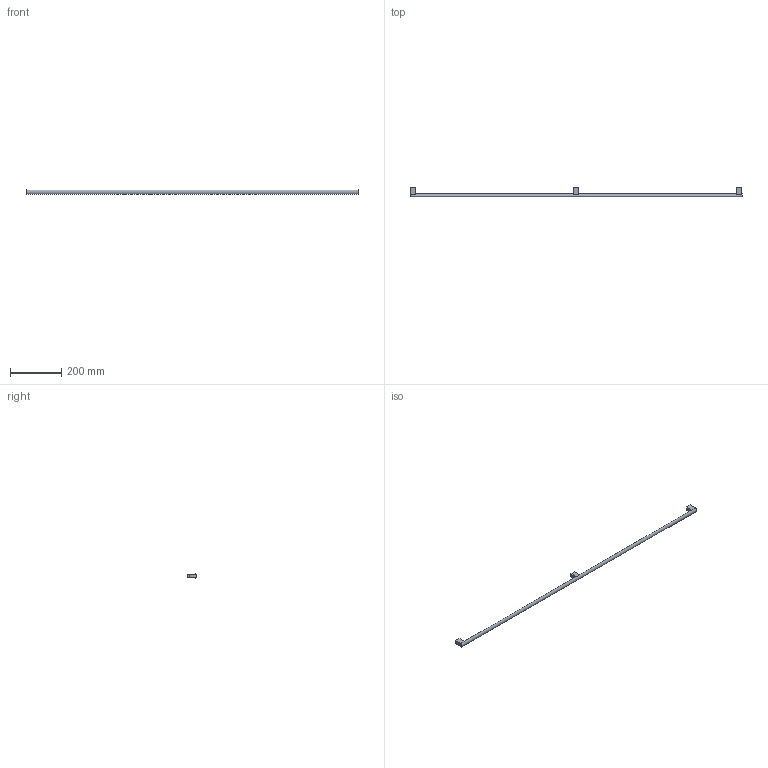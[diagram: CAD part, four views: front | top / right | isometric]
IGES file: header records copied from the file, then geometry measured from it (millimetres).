
Start section: Data from Parasolid IGES Translator 20.0.26, Copyright(c) 2006 Siemens P LM Software. All Rights Reserved.
Global section: file name: 115218.igs; native system: By Siemens PLM Incorporated; preprocessor: XPlus GENERIC/IGES 20.0.26; author: Noname; organization: Noname; date: 20230220.164810; units: millimetre
Bounding box: 1300 x 35.96 x 16 mm (x, y, z)
Surface area: 61756.8 mm2 (no closed solid volume)
Topology: 0 solids, 0 shells, 31 faces, 144 edges, 140 vertices
Faces by surface type: extrusion 25, revolution 6
